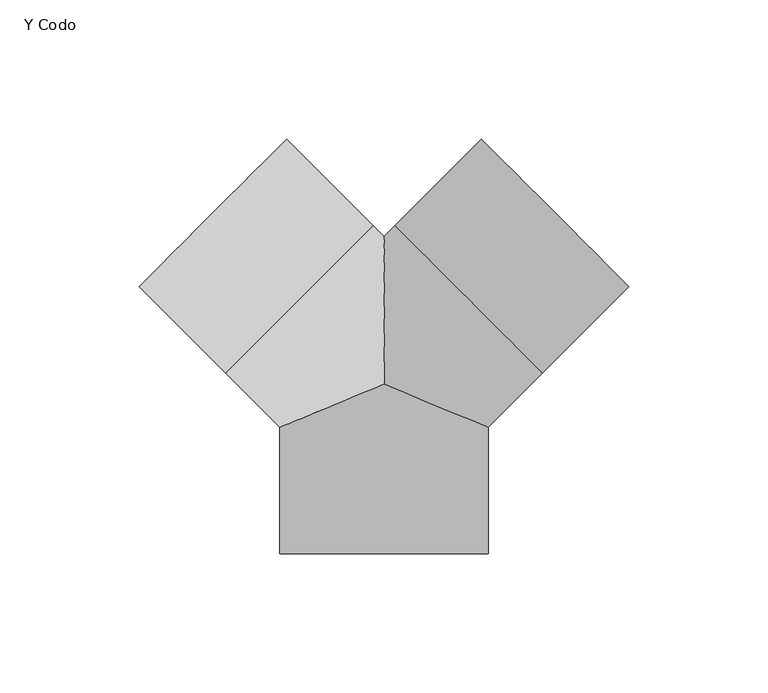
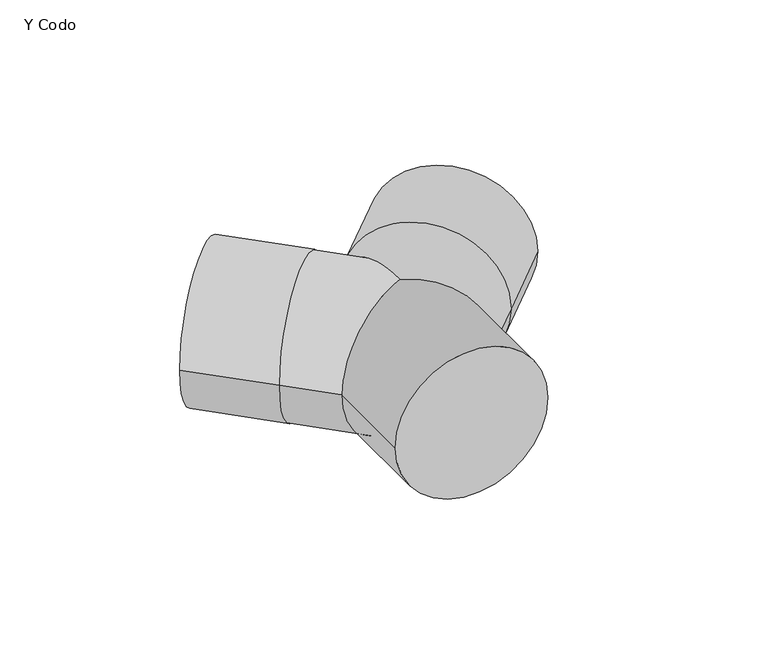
"""IFC4 building model written with IfcOpenShell, lengths in millimetres: pipe fitting geometry, 01051345 : Y Codo."""

from ifc_helpers import new_model, si_unit, frame, origin, place, context, project, spatial, circle_curve, ellipse_curve, source, transform, mapped, element, save
from ifc_brep_helpers import plane_surface, cylinder_surface, advanced_brep


def y_codo_0333d1c6(model_context):
    return source(origin(), model_context, "Body", "AdvancedBrep", [
        advanced_brep(
        [(-3.8890873, 56.9220959, 0.0), (-56.9220959, 3.8890873, 0.0), (-37.5, -15.5330086, 0.0), (0.0, 0.0, 37.5), (0.0, 53.0330086, 0.0), (0.0, 0.0, -37.5), (-35.0017857, 88.0347943, 0.0), (-88.0347943, 35.0017857, 0.0), (56.9220959, 3.8890873, 0.0), (3.8890873, 56.9220959, 0.0), (37.5, -15.5330086, 0.0), (88.0347943, 35.0017857, 0.0), (35.0017857, 88.0347943, 0.0), (-37.5, -61.0, 0.0), (37.5, -61.0, 0.0)],
        [
            (0, 1, circle_curve(frame((-30.4055916, 30.4055916, 0.0), z_axis=(0.7071067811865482, -0.707106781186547, 0.0), x_axis=(-0.707106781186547, -0.7071067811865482, 0.0)), 37.5)),
            (1, 2),
            (2, 3, ellipse_curve(frame((0.0, 0.0, 0.0), z_axis=(-0.38268343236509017, 0.9238795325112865, 0.0), x_axis=(0.9238795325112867, 0.38268343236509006, 0.0)), 40.5897075, 37.5)),
            (3, 4, ellipse_curve(frame((0.0, 0.0, 0.0), z_axis=(-1.0, 0.0, 0.0), x_axis=(0.0, -1.0, 0.0)), 53.0330086, 37.5)),
            (4, 0),
            (1, 0, circle_curve(frame((-30.4055916, 30.4055916, 0.0), z_axis=(0.7071067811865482, -0.707106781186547, 0.0), x_axis=(-0.707106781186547, -0.7071067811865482, 0.0)), 37.5)),
            (4, 5, ellipse_curve(frame((0.0, 0.0, 0.0), z_axis=(-1.0, 0.0, 0.0), x_axis=(0.0, -1.0, 0.0)), 53.0330086, 37.5)),
            (5, 2, ellipse_curve(frame((0.0, 0.0, 0.0), z_axis=(-0.38268343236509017, 0.9238795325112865, 0.0), x_axis=(0.9238795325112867, 0.38268343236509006, 0.0)), 40.5897075, 37.5)),
            (6, 7, circle_curve(frame((-61.51829, 61.51829, 0.0), z_axis=(-0.7071067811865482, 0.707106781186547, 0.0), x_axis=(-0.707106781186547, -0.7071067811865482, 0.0)), 37.5)),
            (7, 6, circle_curve(frame((-61.51829, 61.51829, 0.0), z_axis=(-0.7071067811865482, 0.707106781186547, 0.0), x_axis=(-0.707106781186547, -0.7071067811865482, 0.0)), 37.5)),
            (0, 6),
            (7, 1),
            (8, 9, circle_curve(frame((30.4055916, 30.4055916, 0.0), z_axis=(-0.7071067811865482, -0.7071067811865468, 0.0), x_axis=(-0.7071067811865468, 0.7071067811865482, 0.0)), 37.5)),
            (9, 4),
            (3, 10, ellipse_curve(frame((0.0, 0.0, 0.0), z_axis=(0.3826834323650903, 0.9238795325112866, 0.0), x_axis=(-0.9238795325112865, 0.38268343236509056, 0.0)), 40.5897075, 37.5)),
            (10, 8),
            (9, 8, circle_curve(frame((30.4055916, 30.4055916, 0.0), z_axis=(-0.7071067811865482, -0.7071067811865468, 0.0), x_axis=(-0.7071067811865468, 0.7071067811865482, 0.0)), 37.5)),
            (10, 5, ellipse_curve(frame((0.0, 0.0, 0.0), z_axis=(0.3826834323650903, 0.9238795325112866, 0.0), x_axis=(-0.9238795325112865, 0.38268343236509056, 0.0)), 40.5897075, 37.5)),
            (11, 12, circle_curve(frame((61.51829, 61.51829, 0.0), z_axis=(0.7071067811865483, 0.7071067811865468, 0.0), x_axis=(-0.7071067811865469, 0.7071067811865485, 0.0)), 37.5)),
            (12, 11, circle_curve(frame((61.51829, 61.51829, 0.0), z_axis=(0.7071067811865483, 0.7071067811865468, 0.0), x_axis=(-0.7071067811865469, 0.7071067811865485, 0.0)), 37.5)),
            (8, 11),
            (12, 9),
            (13, 14, circle_curve(frame((0.0, -61.0, 0.0), z_axis=(0.0, -1.0, 0.0), x_axis=(1.0, 0.0, 0.0)), 37.5)),
            (14, 13, circle_curve(frame((0.0, -61.0, 0.0), z_axis=(0.0, -1.0, 0.0), x_axis=(1.0, 0.0, 0.0)), 37.5)),
            (14, 10),
            (2, 13),
        ],
        [
            cylinder_surface(frame((0.0, 0.0, 0.0), z_axis=(0.7071067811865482, -0.707106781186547, 0.0), x_axis=(-0.707106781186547, -0.7071067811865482, 0.0)), 37.5),
            plane_surface(frame((-61.51829, 61.51829, 0.0), z_axis=(-0.707106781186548, 0.707106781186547, 0.0), x_axis=(0.0, 0.0, 1.0))),
            cylinder_surface(frame((-30.4055916, 30.4055916, 0.0), z_axis=(0.7071067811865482, -0.707106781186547, 0.0), x_axis=(-0.707106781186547, -0.7071067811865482, 0.0)), 37.5),
            cylinder_surface(frame((0.0, 0.0, 0.0), z_axis=(-0.7071067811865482, -0.7071067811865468, 0.0), x_axis=(-0.7071067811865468, 0.7071067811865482, 0.0)), 37.5),
            plane_surface(frame((61.51829, 61.51829, 0.0), z_axis=(0.707106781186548, 0.707106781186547, 0.0), x_axis=(0.0, 0.0, 1.0))),
            cylinder_surface(frame((30.4055916, 30.4055916, 0.0), z_axis=(-0.7071067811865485, -0.7071067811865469, 0.0), x_axis=(-0.7071067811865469, 0.7071067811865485, 0.0)), 37.5),
            plane_surface(frame((0.0, -61.0, 0.0), z_axis=(0.0, -1.0, 0.0), x_axis=(0.0, 0.0, 1.0))),
            cylinder_surface(frame((0.0, 0.0, 0.0), z_axis=(0.0, 1.0, 0.0), x_axis=(1.0, 0.0, 0.0)), 37.5),
        ],
        [
            (0, [[1, 2, 3, 4, 5]]),
            (0, [[6, -5, 7, 8, -2]]),
            (1, [[9, 10]]),
            (2, [[-1, 11, -10, 12]]),
            (2, [[-6, -12, -9, -11]]),
            (3, [[13, 14, -4, 15, 16]]),
            (3, [[17, -16, 18, -7, -14]]),
            (4, [[19, 20]]),
            (5, [[-13, 21, -20, 22]]),
            (5, [[-17, -22, -19, -21]]),
            (6, [[23, 24]]),
            (7, [[-24, 25, -15, -3, 26]]),
            (7, [[-23, -26, -8, -18, -25]]),
        ],
    ),
    ])


if __name__ == "__main__":
    model = new_model("IFC4")
    model_context = context("Model", 3, world=origin())
    ifc_project = project(units=[si_unit("LENGTHUNIT", "METRE", prefix="MILLI")], contexts=[model_context])
    site = spatial("IfcSite", under=ifc_project)
    building = spatial("IfcBuilding", under=site)
    placement = place(None, origin())
    y_codo_shape = y_codo_0333d1c6(model_context)
    element("IfcPipeFitting", 1, ObjectType="01051345 : Y Codo", at=placement, inside=building, context=model_context, shape_type="MappedRepresentation", body=[
        mapped(y_codo_shape, transform((0.0, 0.0, 0.0), x_axis=(1.0, 0.0, 0.0), y_axis=(0.0, 1.0, 0.0), z_axis=(0.0, 0.0, 1.0))),
    ])
    save(model, "model.ifc")
